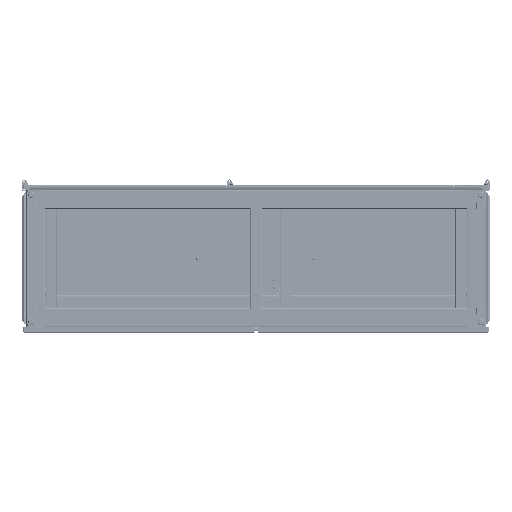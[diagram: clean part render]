
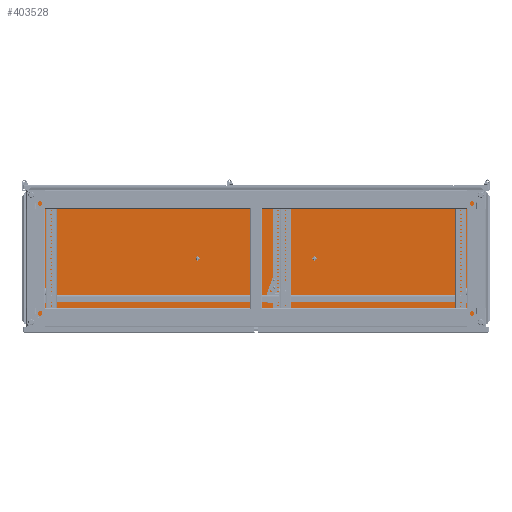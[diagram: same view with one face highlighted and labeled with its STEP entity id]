
A CAD part, front view. The second image highlights one B-rep face of the part: STEP entity #403528.
In plain terms, the highlighted planar face has unit normal (0, -1, 0).
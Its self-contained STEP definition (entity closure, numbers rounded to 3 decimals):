
#400822=DIRECTION('',(-1.,0.,0.));
#400823=VECTOR('',#400822,1562.5);
#400824=CARTESIAN_POINT('',(781.25,11.5,231.25));
#400825=LINE('',#400824,#400823);
#401162=DIRECTION('',(0.,0.,-1.));
#401163=VECTOR('',#401162,462.5);
#401164=CARTESIAN_POINT('',(-781.25,11.5,231.25));
#401165=LINE('',#401164,#401163);
#401181=DIRECTION('',(-1.,0.,0.));
#401182=VECTOR('',#401181,1562.5);
#401183=CARTESIAN_POINT('',(781.25,11.5,-231.25));
#401184=LINE('',#401183,#401182);
#401185=DIRECTION('',(0.,0.,-1.));
#401186=VECTOR('',#401185,462.5);
#401187=CARTESIAN_POINT('',(781.25,11.5,231.25));
#401188=LINE('',#401187,#401186);
#401189=CARTESIAN_POINT('',(767.5,11.5,217.5));
#401190=DIRECTION('',(0.,1.,0.));
#401191=DIRECTION('',(1.,0.,0.));
#401192=AXIS2_PLACEMENT_3D('',#401189,#401190,#401191);
#401194=CARTESIAN_POINT('',(767.5,11.5,217.5));
#401195=DIRECTION('',(0.,1.,0.));
#401196=DIRECTION('',(-1.,0.,0.));
#401197=AXIS2_PLACEMENT_3D('',#401194,#401195,#401196);
#401199=CARTESIAN_POINT('',(767.5,11.5,-217.5));
#401200=DIRECTION('',(0.,-1.,0.));
#401201=DIRECTION('',(1.,0.,0.));
#401202=AXIS2_PLACEMENT_3D('',#401199,#401200,#401201);
#401204=CARTESIAN_POINT('',(767.5,11.5,-217.5));
#401205=DIRECTION('',(0.,-1.,0.));
#401206=DIRECTION('',(-1.,0.,0.));
#401207=AXIS2_PLACEMENT_3D('',#401204,#401205,#401206);
#401209=CARTESIAN_POINT('',(-767.5,11.5,217.5));
#401210=DIRECTION('',(0.,-1.,0.));
#401211=DIRECTION('',(-1.,0.,0.));
#401212=AXIS2_PLACEMENT_3D('',#401209,#401210,#401211);
#401214=CARTESIAN_POINT('',(-767.5,11.5,217.5));
#401215=DIRECTION('',(0.,-1.,0.));
#401216=DIRECTION('',(1.,0.,0.));
#401217=AXIS2_PLACEMENT_3D('',#401214,#401215,#401216);
#401219=CARTESIAN_POINT('',(-767.5,11.5,-217.5));
#401220=DIRECTION('',(0.,1.,0.));
#401221=DIRECTION('',(-1.,0.,0.));
#401222=AXIS2_PLACEMENT_3D('',#401219,#401220,#401221);
#401224=CARTESIAN_POINT('',(-767.5,11.5,-217.5));
#401225=DIRECTION('',(0.,1.,0.));
#401226=DIRECTION('',(1.,0.,0.));
#401227=AXIS2_PLACEMENT_3D('',#401224,#401225,#401226);
#401229=CARTESIAN_POINT('',(0.,11.5,217.5));
#401230=DIRECTION('',(0.,1.,0.));
#401231=DIRECTION('',(0.,0.,1.));
#401232=AXIS2_PLACEMENT_3D('',#401229,#401230,#401231);
#401234=CARTESIAN_POINT('',(0.,11.5,217.5));
#401235=DIRECTION('',(0.,1.,0.));
#401236=DIRECTION('',(0.,0.,-1.));
#401237=AXIS2_PLACEMENT_3D('',#401234,#401235,#401236);
#401239=CARTESIAN_POINT('',(0.,11.5,-217.5));
#401240=DIRECTION('',(0.,-1.,0.));
#401241=DIRECTION('',(0.,0.,-1.));
#401242=AXIS2_PLACEMENT_3D('',#401239,#401240,#401241);
#401244=CARTESIAN_POINT('',(0.,11.5,-217.5));
#401245=DIRECTION('',(0.,-1.,0.));
#401246=DIRECTION('',(0.,0.,1.));
#401247=AXIS2_PLACEMENT_3D('',#401244,#401245,#401246);
#401249=CARTESIAN_POINT('',(699.75,11.5,0.));
#401250=DIRECTION('',(0.,-1.,0.));
#401251=DIRECTION('',(0.,0.,-1.));
#401252=AXIS2_PLACEMENT_3D('',#401249,#401250,#401251);
#401254=CARTESIAN_POINT('',(699.75,11.5,0.));
#401255=DIRECTION('',(0.,-1.,0.));
#401256=DIRECTION('',(0.,0.,1.));
#401257=AXIS2_PLACEMENT_3D('',#401254,#401255,#401256);
#401259=CARTESIAN_POINT('',(-699.75,11.5,0.));
#401260=DIRECTION('',(0.,-1.,0.));
#401261=DIRECTION('',(0.,0.,-1.));
#401262=AXIS2_PLACEMENT_3D('',#401259,#401260,#401261);
#401264=CARTESIAN_POINT('',(-699.75,11.5,0.));
#401265=DIRECTION('',(0.,-1.,0.));
#401266=DIRECTION('',(0.,0.,1.));
#401267=AXIS2_PLACEMENT_3D('',#401264,#401265,#401266);
#402066=CARTESIAN_POINT('',(777.993,11.5,217.5));
#402067=CARTESIAN_POINT('',(757.007,11.5,217.5));
#402068=VERTEX_POINT('',#402066);
#402069=VERTEX_POINT('',#402067);
#402090=CARTESIAN_POINT('',(777.993,11.5,-217.5));
#402091=CARTESIAN_POINT('',(757.007,11.5,-217.5));
#402092=VERTEX_POINT('',#402090);
#402093=VERTEX_POINT('',#402091);
#402114=CARTESIAN_POINT('',(-777.993,11.5,217.5));
#402115=CARTESIAN_POINT('',(-757.007,11.5,217.5));
#402116=VERTEX_POINT('',#402114);
#402117=VERTEX_POINT('',#402115);
#402138=CARTESIAN_POINT('',(-777.993,11.5,-217.5));
#402139=CARTESIAN_POINT('',(-757.007,11.5,-217.5));
#402140=VERTEX_POINT('',#402138);
#402141=VERTEX_POINT('',#402139);
#402150=CARTESIAN_POINT('',(699.75,11.5,-0.5));
#402151=CARTESIAN_POINT('',(699.75,11.5,0.5));
#402152=VERTEX_POINT('',#402150);
#402153=VERTEX_POINT('',#402151);
#402154=CARTESIAN_POINT('',(-699.75,11.5,-0.5));
#402155=CARTESIAN_POINT('',(-699.75,11.5,0.5));
#402156=VERTEX_POINT('',#402154);
#402157=VERTEX_POINT('',#402155);
#402182=CARTESIAN_POINT('',(781.25,11.5,231.25));
#402184=VERTEX_POINT('',#402182);
#402186=CARTESIAN_POINT('',(-781.25,11.5,231.25));
#402187=VERTEX_POINT('',#402186);
#402198=CARTESIAN_POINT('',(781.25,11.5,-231.25));
#402200=VERTEX_POINT('',#402198);
#402204=CARTESIAN_POINT('',(-781.25,11.5,-231.25));
#402205=VERTEX_POINT('',#402204);
#402250=CARTESIAN_POINT('',(0.,11.5,224.078));
#402251=CARTESIAN_POINT('',(0.,11.5,210.922));
#402252=VERTEX_POINT('',#402250);
#402253=VERTEX_POINT('',#402251);
#402274=CARTESIAN_POINT('',(0.,11.5,-224.078));
#402275=CARTESIAN_POINT('',(0.,11.5,-210.922));
#402276=VERTEX_POINT('',#402274);
#402277=VERTEX_POINT('',#402275);
#403469=CARTESIAN_POINT('',(781.25,11.5,-231.25));
#403470=DIRECTION('',(0.,1.,0.));
#403471=DIRECTION('',(0.,0.,1.));
#403472=AXIS2_PLACEMENT_3D('',#403469,#403470,#403471);
#403473=PLANE('',#403472);
#403474=ORIENTED_EDGE('',*,*,#403005,.T.);
#403475=ORIENTED_EDGE('',*,*,#403459,.F.);
#403476=ORIENTED_EDGE('',*,*,#402899,.F.);
#403477=ORIENTED_EDGE('',*,*,#402967,.T.);
#403478=EDGE_LOOP('',(#403474,#403475,#403476,#403477));
#403479=FACE_OUTER_BOUND('',#403478,.F.);
#403481=ORIENTED_EDGE('',*,*,#403480,.F.);
#403483=ORIENTED_EDGE('',*,*,#403482,.F.);
#403484=EDGE_LOOP('',(#403481,#403483));
#403485=FACE_BOUND('',#403484,.F.);
#403487=ORIENTED_EDGE('',*,*,#403486,.T.);
#403489=ORIENTED_EDGE('',*,*,#403488,.T.);
#403490=EDGE_LOOP('',(#403487,#403489));
#403491=FACE_BOUND('',#403490,.F.);
#403493=ORIENTED_EDGE('',*,*,#403492,.T.);
#403495=ORIENTED_EDGE('',*,*,#403494,.T.);
#403496=EDGE_LOOP('',(#403493,#403495));
#403497=FACE_BOUND('',#403496,.F.);
#403499=ORIENTED_EDGE('',*,*,#403498,.F.);
#403501=ORIENTED_EDGE('',*,*,#403500,.F.);
#403502=EDGE_LOOP('',(#403499,#403501));
#403503=FACE_BOUND('',#403502,.F.);
#403505=ORIENTED_EDGE('',*,*,#403504,.F.);
#403507=ORIENTED_EDGE('',*,*,#403506,.F.);
#403508=EDGE_LOOP('',(#403505,#403507));
#403509=FACE_BOUND('',#403508,.F.);
#403511=ORIENTED_EDGE('',*,*,#403510,.T.);
#403513=ORIENTED_EDGE('',*,*,#403512,.T.);
#403514=EDGE_LOOP('',(#403511,#403513));
#403515=FACE_BOUND('',#403514,.F.);
#403517=ORIENTED_EDGE('',*,*,#403516,.T.);
#403519=ORIENTED_EDGE('',*,*,#403518,.T.);
#403520=EDGE_LOOP('',(#403517,#403519));
#403521=FACE_BOUND('',#403520,.F.);
#403523=ORIENTED_EDGE('',*,*,#403522,.T.);
#403525=ORIENTED_EDGE('',*,*,#403524,.T.);
#403526=EDGE_LOOP('',(#403523,#403525));
#403527=FACE_BOUND('',#403526,.F.);
#403528=ADVANCED_FACE('',(#403479,#403485,#403491,#403497,#403503,#403509,
#403515,#403521,#403527),#403473,.F.);
#401193=CIRCLE('',#401192,10.493);
#401198=CIRCLE('',#401197,10.493);
#401203=CIRCLE('',#401202,10.493);
#401208=CIRCLE('',#401207,10.493);
#401213=CIRCLE('',#401212,10.493);
#401218=CIRCLE('',#401217,10.493);
#401223=CIRCLE('',#401222,10.493);
#401228=CIRCLE('',#401227,10.493);
#401233=CIRCLE('',#401232,6.578);
#401238=CIRCLE('',#401237,6.578);
#401243=CIRCLE('',#401242,6.578);
#401248=CIRCLE('',#401247,6.578);
#401253=CIRCLE('',#401252,0.5);
#401258=CIRCLE('',#401257,0.5);
#401263=CIRCLE('',#401262,0.5);
#401268=CIRCLE('',#401267,0.5);
#402899=EDGE_CURVE('',#402184,#402187,#400825,.T.);
#402967=EDGE_CURVE('',#402184,#402200,#401188,.T.);
#403005=EDGE_CURVE('',#402200,#402205,#401184,.T.);
#403459=EDGE_CURVE('',#402187,#402205,#401165,.T.);
#403480=EDGE_CURVE('',#402068,#402069,#401193,.T.);
#403482=EDGE_CURVE('',#402069,#402068,#401198,.T.);
#403486=EDGE_CURVE('',#402092,#402093,#401203,.T.);
#403488=EDGE_CURVE('',#402093,#402092,#401208,.T.);
#403492=EDGE_CURVE('',#402116,#402117,#401213,.T.);
#403494=EDGE_CURVE('',#402117,#402116,#401218,.T.);
#403498=EDGE_CURVE('',#402140,#402141,#401223,.T.);
#403500=EDGE_CURVE('',#402141,#402140,#401228,.T.);
#403504=EDGE_CURVE('',#402252,#402253,#401233,.T.);
#403506=EDGE_CURVE('',#402253,#402252,#401238,.T.);
#403510=EDGE_CURVE('',#402276,#402277,#401243,.T.);
#403512=EDGE_CURVE('',#402277,#402276,#401248,.T.);
#403516=EDGE_CURVE('',#402152,#402153,#401253,.T.);
#403518=EDGE_CURVE('',#402153,#402152,#401258,.T.);
#403522=EDGE_CURVE('',#402156,#402157,#401263,.T.);
#403524=EDGE_CURVE('',#402157,#402156,#401268,.T.);
